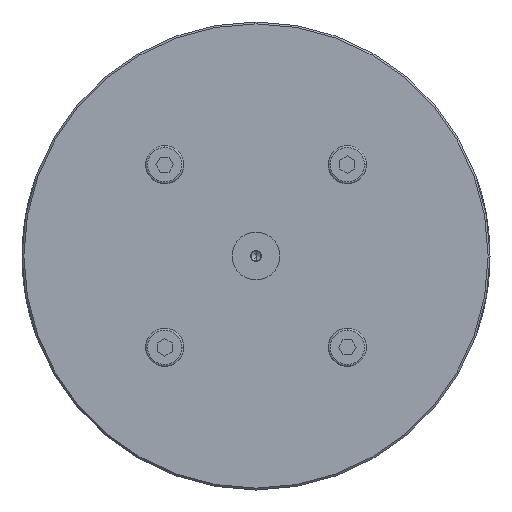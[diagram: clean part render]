
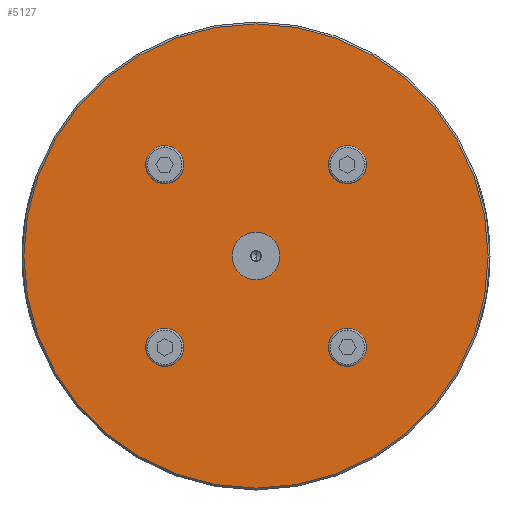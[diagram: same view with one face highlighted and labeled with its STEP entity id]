
A CAD part, front view. The second image highlights one B-rep face of the part: STEP entity #5127.
In plain terms, the highlighted planar face has unit normal (0, -1, 0).
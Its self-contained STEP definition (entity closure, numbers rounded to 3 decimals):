
#104 = EDGE_CURVE ( 'NONE', #2017, #2009, #300, .T. ) ;
#123 = EDGE_CURVE ( 'NONE', #1028, #1029, #451, .T. ) ;
#127 = EDGE_CURVE ( 'NONE', #1029, #1028, #460, .T. ) ;
#128 = EDGE_CURVE ( 'NONE', #2009, #2017, #462, .T. ) ;
#300 = CIRCLE ( 'NONE', #429, 122. ) ;
#385 = ORIENTED_EDGE ( 'NONE', *, *, #104, .T. ) ;
#389 = ORIENTED_EDGE ( 'NONE', *, *, #127, .F. ) ;
#429 = AXIS2_PLACEMENT_3D ( 'NONE', #3188, #3189, #3190 ) ;
#451 = CIRCLE ( 'NONE', #456, 12.5 ) ;
#456 = AXIS2_PLACEMENT_3D ( 'NONE', #2529, #2530, #2531 ) ;
#460 = CIRCLE ( 'NONE', #463, 12.5 ) ;
#462 = CIRCLE ( 'NONE', #3509, 122. ) ;
#463 = AXIS2_PLACEMENT_3D ( 'NONE', #2540, #2541, #2542 ) ;
#1028 = VERTEX_POINT ( 'NONE', #2844 ) ;
#1029 = VERTEX_POINT ( 'NONE', #2845 ) ;
#2009 = VERTEX_POINT ( 'NONE', #2874 ) ;
#2017 = VERTEX_POINT ( 'NONE', #2881 ) ;
#2283 = ORIENTED_EDGE ( 'NONE', *, *, #128, .T. ) ;
#2326 = ORIENTED_EDGE ( 'NONE', *, *, #123, .F. ) ;
#2529 = CARTESIAN_POINT ( 'NONE',  ( 0., 0., 0. ) ) ;
#2530 = DIRECTION ( 'NONE',  ( 0., -1., 0. ) ) ;
#2531 = DIRECTION ( 'NONE',  ( 1., 0., 0. ) ) ;
#2540 = CARTESIAN_POINT ( 'NONE',  ( 0., 0., 0. ) ) ;
#2541 = DIRECTION ( 'NONE',  ( 0., -1., 0. ) ) ;
#2542 = DIRECTION ( 'NONE',  ( 1., 0., 0. ) ) ;
#2544 = CARTESIAN_POINT ( 'NONE',  ( 0., 0., 0. ) ) ;
#2545 = DIRECTION ( 'NONE',  ( 0., -1., 0. ) ) ;
#2546 = DIRECTION ( 'NONE',  ( 1., 0., 0. ) ) ;
#2844 = CARTESIAN_POINT ( 'NONE',  ( -12.5, 0., 0. ) ) ;
#2845 = CARTESIAN_POINT ( 'NONE',  ( 12.5, 0., 0. ) ) ;
#2874 = CARTESIAN_POINT ( 'NONE',  ( -122., 0., 0. ) ) ;
#2881 = CARTESIAN_POINT ( 'NONE',  ( 122., 0., 0. ) ) ;
#3188 = CARTESIAN_POINT ( 'NONE',  ( 0., 0., 0. ) ) ;
#3189 = DIRECTION ( 'NONE',  ( 0., -1., 0. ) ) ;
#3190 = DIRECTION ( 'NONE',  ( 1., 0., 0. ) ) ;
#3509 = AXIS2_PLACEMENT_3D ( 'NONE', #2544, #2545, #2546 ) ;
#4774 = AXIS2_PLACEMENT_3D ( 'NONE', #5838, #5846, #5847 ) ;
#5127 = ADVANCED_FACE ( 'NONE', ( #5843, #5839 ), #5844, .T. ) ;
#5562 = EDGE_LOOP ( 'NONE', ( #389, #2326 ) ) ;
#5565 = EDGE_LOOP ( 'NONE', ( #2283, #385 ) ) ;
#5838 = CARTESIAN_POINT ( 'NONE',  ( 12.5, 0., 0. ) ) ;
#5839 = FACE_BOUND ( 'NONE', #5562, .T. ) ;
#5843 = FACE_OUTER_BOUND ( 'NONE', #5565, .T. ) ;
#5844 = PLANE ( 'NONE',  #4774 ) ;
#5846 = DIRECTION ( 'NONE',  ( 0., -1., 0. ) ) ;
#5847 = DIRECTION ( 'NONE',  ( 1., 0., 0. ) ) ;
